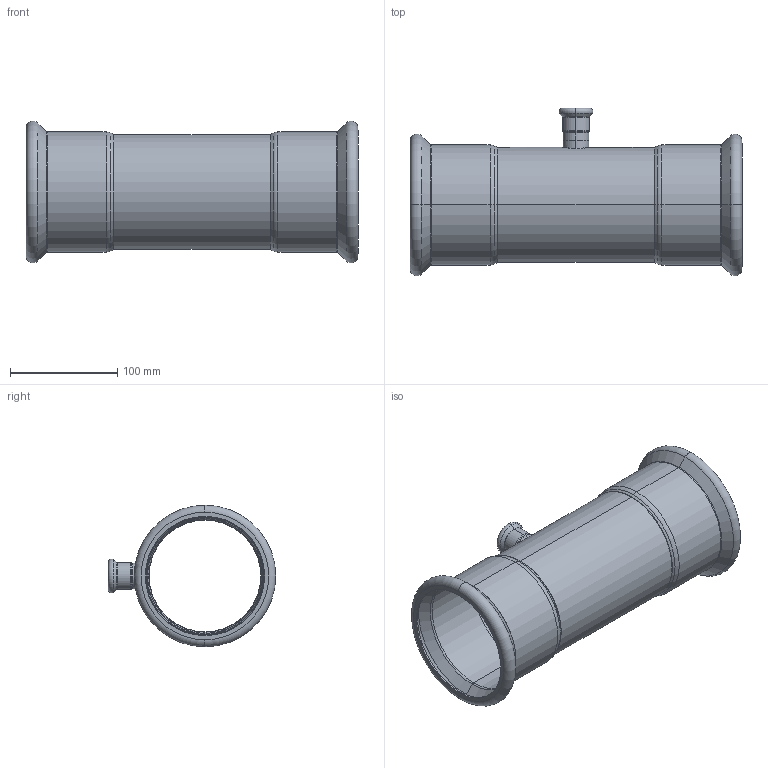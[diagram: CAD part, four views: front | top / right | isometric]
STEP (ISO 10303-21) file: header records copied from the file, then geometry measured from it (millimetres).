
FILE_DESCRIPTION (( 'STEP AP203' ), '1' );
FILE_NAME ('GDA5223.STEP', '2019-01-12T05:59:18', ( '' ), ( '' ), 'SwSTEP 2.0', 'SolidWorks 2015', '' );
FILE_SCHEMA (( 'CONFIG_CONTROL_DESIGN' ));
Length unit declared in the file: millimetre
Products named in the file (3): T(R)-Ⅰ-108×22''; T-ｉ-01-22; GDA5223
Assembly tree (2 placements, depth 2):
  GDA5223
    T(R)-Ⅰ-108×22''
    T-ｉ-01-22
Bounding box: 309 x 155.89 x 131.78 mm (x, y, z)
Volume: 175594 mm3; surface area: 235501.5 mm2
Topology: 2 solids, 2 shells, 114 faces, 234 edges, 128 vertices
Faces by surface type: torus 48, cylinder 30, cone 24, plane 8, bspline 4
Entity records: 4257 total; most frequent: CARTESIAN_POINT 1467, DIRECTION 620, ORIENTED_EDGE 468, AXIS2_PLACEMENT_3D 283, EDGE_CURVE 234, CIRCLE 168, VERTEX_POINT 128, EDGE_LOOP 124
